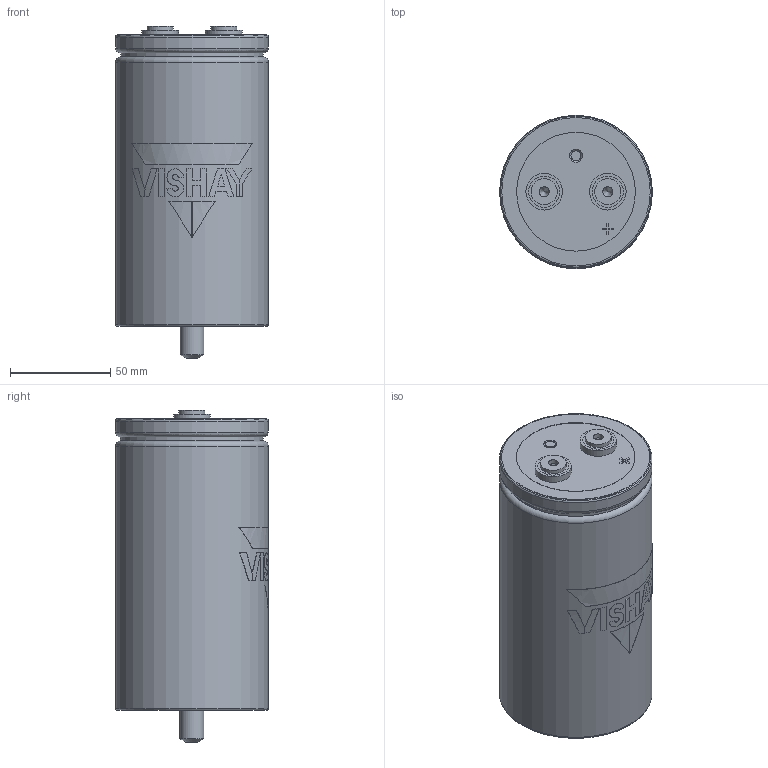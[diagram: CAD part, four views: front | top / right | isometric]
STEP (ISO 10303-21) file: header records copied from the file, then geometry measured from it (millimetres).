
FILE_DESCRIPTION(('FreeCAD Model'),'2;1');
FILE_NAME('C:/Users/tvandesteeg/Documents/Documents/FreeCAD/Stepfiles/ST capacitors/STB_LP_M6_76x146.step','2020-07-02T18:02:15',('Author'),(''), 'Open CASCADE STEP processor 7.3','FreeCAD','Unknown');
FILE_SCHEMA(('AUTOMOTIVE_DESIGN { 1 0 10303 214 1 1 1 1 }'));
Length unit declared in the file: millimetre
Products named in the file (7): VentBody; TerminalBody_(Mirror_#2); TerminalBody; STBBottomBody; Disc; LogoPrint; CanBody
Bounding box: 76.4 x 76.5 x 166 mm (x, y, z)
Volume: 665819.6 mm3; surface area: 71972.4 mm2
Topology: 17 solids, 17 shells, 152 faces, 318 edges, 209 vertices
Faces by surface type: plane 94, cylinder 49, torus 5, cone 4
Full cylindrical faces by diameter (mm): 5 x4, 11.966 x1, 13 x2, 15.65 x6, 18.3 x2, 59.422 x3, 71.4 x1, 72 x2, 76.4 x2
Entity records: 10788 total; most frequent: CARTESIAN_POINT 3378, DIRECTION 1228, ORIENTED_EDGE 632, PCURVE 632, DEFINITIONAL_REPRESENTATION 632, LINE 542, VECTOR 542, EDGE_CURVE 316
